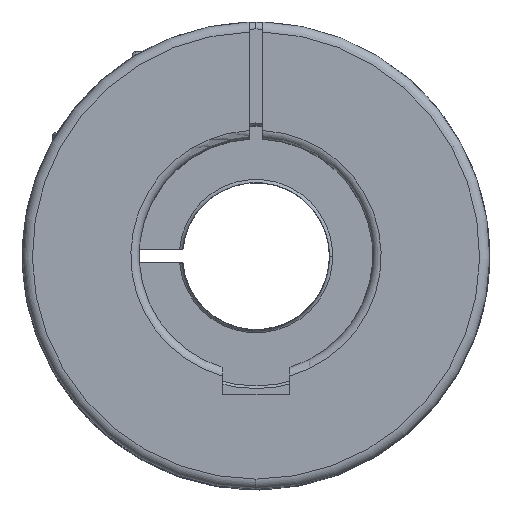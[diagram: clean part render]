
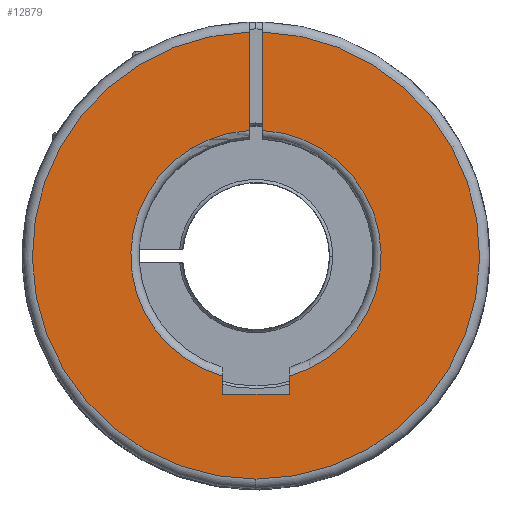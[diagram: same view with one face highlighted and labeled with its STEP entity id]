
A CAD part, top view. The second image highlights one B-rep face of the part: STEP entity #12879.
In plain terms, the highlighted planar face has unit normal (0, 0, 1).
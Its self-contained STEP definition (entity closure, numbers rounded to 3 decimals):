
#3322 = CARTESIAN_POINT ( 'NONE',  ( -0.172, 22.397, 62.541 ) ) ;
#3323 = DIRECTION ( 'NONE',  ( 0., -1., 0. ) ) ;
#3324 = DIRECTION ( 'NONE',  ( 0., 0., -1. ) ) ;
#3325 = AXIS2_PLACEMENT_3D ( 'NONE', #3337, #3324, #3323 ) ;
#3326 = CIRCLE ( 'NONE', #3325, 18.75 ) ;
#3337 = CARTESIAN_POINT ( 'NONE',  ( -1.172, 3.674, 62.541 ) ) ;
#3338 = CARTESIAN_POINT ( 'NONE',  ( 3.828, -14.397, 62.541 ) ) ;
#3394 = DIRECTION ( 'NONE',  ( 0., 1., 0. ) ) ;
#3395 = VECTOR ( 'NONE', #3394, 1000. ) ;
#3396 = CARTESIAN_POINT ( 'NONE',  ( 3.828, -17.126, 62.541 ) ) ;
#3397 = LINE ( 'NONE', #3396, #3395 ) ;
#3398 = CARTESIAN_POINT ( 'NONE',  ( 3.828, -17.126, 62.541 ) ) ;
#3437 = DIRECTION ( 'NONE',  ( 1., 0., 0. ) ) ;
#3438 = VECTOR ( 'NONE', #3437, 1000. ) ;
#3439 = CARTESIAN_POINT ( 'NONE',  ( -6.172, -17.126, 62.541 ) ) ;
#3440 = LINE ( 'NONE', #3439, #3438 ) ;
#3441 = CARTESIAN_POINT ( 'NONE',  ( -6.172, -17.126, 62.541 ) ) ;
#4163 = DIRECTION ( 'NONE',  ( 0., 1., 0. ) ) ;
#4164 = VECTOR ( 'NONE', #4163, 1000. ) ;
#4165 = CARTESIAN_POINT ( 'NONE',  ( -0.172, 3.674, 62.541 ) ) ;
#4166 = LINE ( 'NONE', #4165, #4164 ) ;
#4167 = DIRECTION ( 'NONE',  ( 0., -1., 0. ) ) ;
#4168 = DIRECTION ( 'NONE',  ( 0., 0., -1. ) ) ;
#4169 = CARTESIAN_POINT ( 'NONE',  ( -1.172, 3.674, 62.541 ) ) ;
#4170 = AXIS2_PLACEMENT_3D ( 'NONE', #4169, #4168, #4167 ) ;
#4171 = PLANE ( 'NONE',  #4170 ) ;
#4172 = FACE_OUTER_BOUND ( 'NONE', #12880, .T. ) ;
#4173 = DIRECTION ( 'NONE',  ( 0., 1., 0. ) ) ;
#4174 = VECTOR ( 'NONE', #4173, 1000. ) ;
#4175 = CARTESIAN_POINT ( 'NONE',  ( -2.172, 3.674, 62.541 ) ) ;
#4176 = LINE ( 'NONE', #4175, #4174 ) ;
#5928 = VECTOR ( 'NONE', #5975, 1000. ) ;
#5929 = CARTESIAN_POINT ( 'NONE',  ( -6.172, -13.096, 62.541 ) ) ;
#5930 = LINE ( 'NONE', #5929, #5928 ) ;
#5931 = CARTESIAN_POINT ( 'NONE',  ( -6.172, -14.397, 62.541 ) ) ;
#5952 = CARTESIAN_POINT ( 'NONE',  ( -2.172, 22.397, 62.541 ) ) ;
#5953 = DIRECTION ( 'NONE',  ( 0., -1., 0. ) ) ;
#5954 = DIRECTION ( 'NONE',  ( 0., 0., -1. ) ) ;
#5955 = AXIS2_PLACEMENT_3D ( 'NONE', #5962, #5954, #5953 ) ;
#5956 = CIRCLE ( 'NONE', #5955, 18.75 ) ;
#5962 = CARTESIAN_POINT ( 'NONE',  ( -1.172, 3.674, 62.541 ) ) ;
#5975 = DIRECTION ( 'NONE',  ( 0., -1., 0. ) ) ;
#5983 = CARTESIAN_POINT ( 'NONE',  ( -2.172, 37.159, 62.541 ) ) ;
#5984 = DIRECTION ( 'NONE',  ( 0., -1., 0. ) ) ;
#5985 = DIRECTION ( 'NONE',  ( 0., 0., 1. ) ) ;
#5986 = CARTESIAN_POINT ( 'NONE',  ( -1.172, 3.674, 62.541 ) ) ;
#5987 = AXIS2_PLACEMENT_3D ( 'NONE', #5986, #5985, #5984 ) ;
#5988 = CIRCLE ( 'NONE', #5987, 33.5 ) ;
#6981 = CARTESIAN_POINT ( 'NONE',  ( -0.172, 37.159, 62.541 ) ) ;
#6982 = CARTESIAN_POINT ( 'NONE',  ( -1.172, -29.826, 62.541 ) ) ;
#6983 = DIRECTION ( 'NONE',  ( 0., -1., 0. ) ) ;
#6984 = DIRECTION ( 'NONE',  ( 0., 0., 1. ) ) ;
#6985 = CARTESIAN_POINT ( 'NONE',  ( -1.172, 3.674, 62.541 ) ) ;
#6986 = AXIS2_PLACEMENT_3D ( 'NONE', #6985, #6984, #6983 ) ;
#6987 = CIRCLE ( 'NONE', #6986, 33.5 ) ;
#11685 = EDGE_CURVE ( 'NONE', #11686, #11687, #6987, .T. ) ;
#11686 = VERTEX_POINT ( 'NONE', #6982 ) ;
#11687 = VERTEX_POINT ( 'NONE', #6981 ) ;
#12744 = VERTEX_POINT ( 'NONE', #3338 ) ;
#12746 = EDGE_CURVE ( 'NONE', #12747, #12744, #3326, .T. ) ;
#12747 = VERTEX_POINT ( 'NONE', #3322 ) ;
#12761 = VERTEX_POINT ( 'NONE', #3398 ) ;
#12763 = EDGE_CURVE ( 'NONE', #12761, #12744, #3397, .T. ) ;
#12774 = VERTEX_POINT ( 'NONE', #3441 ) ;
#12776 = EDGE_CURVE ( 'NONE', #12774, #12761, #3440, .T. ) ;
#12873 = EDGE_CURVE ( 'NONE', #13039, #13049, #4176, .T. ) ;
#12879 = ADVANCED_FACE ( 'NONE', ( #4172 ), #4171, .F. ) ;
#12880 = EDGE_LOOP ( 'NONE', ( #12881, #12882, #12883, #12884, #12886, #12887, #12888, #12889, #12890 ) ) ;
#12881 = ORIENTED_EDGE ( 'NONE', *, *, #12873, .T. ) ;
#12882 = ORIENTED_EDGE ( 'NONE', *, *, #13048, .T. ) ;
#12883 = ORIENTED_EDGE ( 'NONE', *, *, #11685, .T. ) ;
#12884 = ORIENTED_EDGE ( 'NONE', *, *, #12885, .F. ) ;
#12885 = EDGE_CURVE ( 'NONE', #12747, #11687, #4166, .T. ) ;
#12886 = ORIENTED_EDGE ( 'NONE', *, *, #12746, .T. ) ;
#12887 = ORIENTED_EDGE ( 'NONE', *, *, #12763, .F. ) ;
#12888 = ORIENTED_EDGE ( 'NONE', *, *, #12776, .F. ) ;
#12889 = ORIENTED_EDGE ( 'NONE', *, *, #13025, .F. ) ;
#12890 = ORIENTED_EDGE ( 'NONE', *, *, #13038, .T. ) ;
#13023 = VERTEX_POINT ( 'NONE', #5931 ) ;
#13025 = EDGE_CURVE ( 'NONE', #13023, #12774, #5930, .T. ) ;
#13038 = EDGE_CURVE ( 'NONE', #13023, #13039, #5956, .T. ) ;
#13039 = VERTEX_POINT ( 'NONE', #5952 ) ;
#13048 = EDGE_CURVE ( 'NONE', #13049, #11686, #5988, .T. ) ;
#13049 = VERTEX_POINT ( 'NONE', #5983 ) ;
